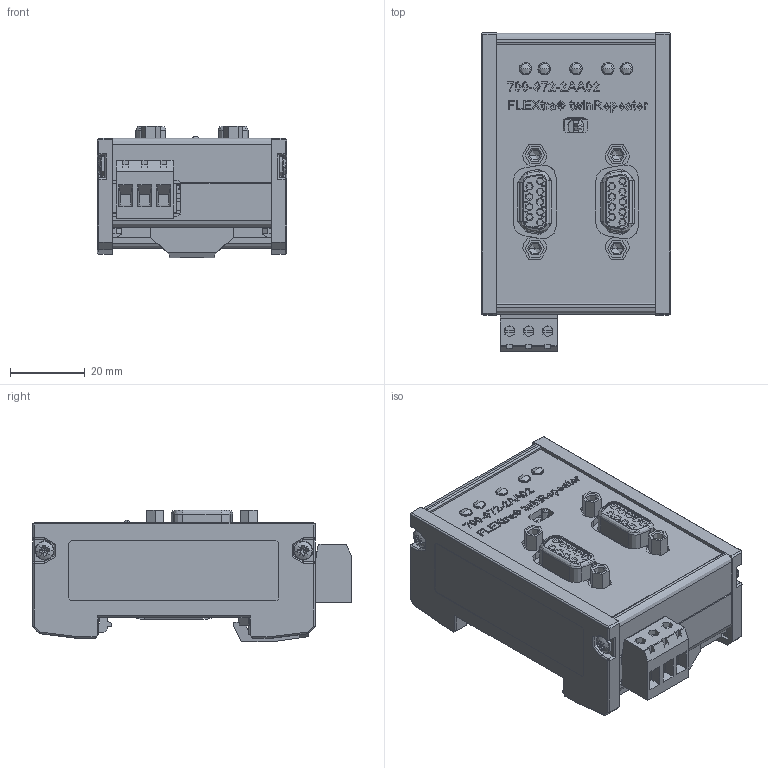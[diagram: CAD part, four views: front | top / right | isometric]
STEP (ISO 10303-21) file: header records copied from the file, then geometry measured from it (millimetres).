
FILE_DESCRIPTION (( 'STEP AP214' ), '1' );
FILE_NAME ('700-972-2AA02_V00-21.STEP', '2019-11-22T11:46:23', ( '' ), ( '' ), 'SwSTEP 2.0', 'SolidWorks 2019', '' );
FILE_SCHEMA (( 'AUTOMOTIVE_DESIGN' ));
Length unit declared in the file: millimetre
Products named in the file (34): PLP2-xxx V00-11; 700-972-2AA02_V00-21; g-mpi-010 V00-00; m-k30x08-bj V 00-00; g-alu-002_V00-00_RAL 6034; ArtNr^700-972-2AA02_V00-21; m-k29x45V 00-00; b003-phx-03 V 00-00; 7010V23-Einzel; g-alu-002_V00-00; g-alu-001 V01-03; g-alu-042_V00-01_cutout for 5.08 grid; ps-alu-144_V00-01; PLP2-xxx V00-11_PLP2-7MM; g-alu-001 V01-03_RAL 6034 ; g-alu-042_V00-01
Assembly tree (22 placements, depth 2):
  PLP2-xxx V00-11
  700-972-2AA02_V00-21
    g-alu-042_V00-01_cutout for 5.08 grid
    ps-alu-144_V00-01
    g-alu-001 V01-03_RAL 6034   x2
    m-k30x08-bj V 00-00  x4
    m-k29x45V 00-00
    ArtNr^700-972-2AA02_V00-21
    PLP2-xxx V00-11_PLP2-7MM  x5
    g-mpi-010 V00-00  x4
    b003-phx-03 V 00-00
    g-alu-002_V00-00_RAL 6034
    7010V23-Einzel
  g-mpi-010 V00-00
  PLP2-xxx V00-11
  m-k30x08-bj V 00-00
Bounding box: 50.5 x 85.1 x 35.17 mm (x, y, z)
Topology: 60 solids, 274 shells, 10147 faces, 26268 edges, 16590 vertices
Faces by surface type: plane 6092, cylinder 1800, bspline 1734, cone 461, sphere 36, torus 24
Entity records: 425044 total; most frequent: CARTESIAN_POINT 113673, ORIENTED_EDGE 48440, DIRECTION 39705, EDGE_CURVE 24315, LINE 16511, VECTOR 16511, VERTEX_POINT 15490, AXIS2_PLACEMENT_3D 11597
